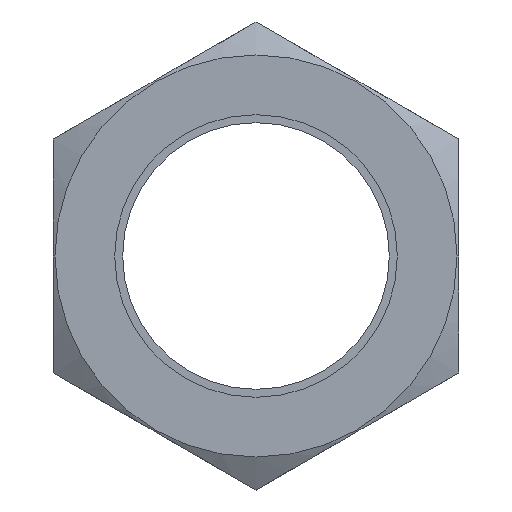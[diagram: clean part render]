
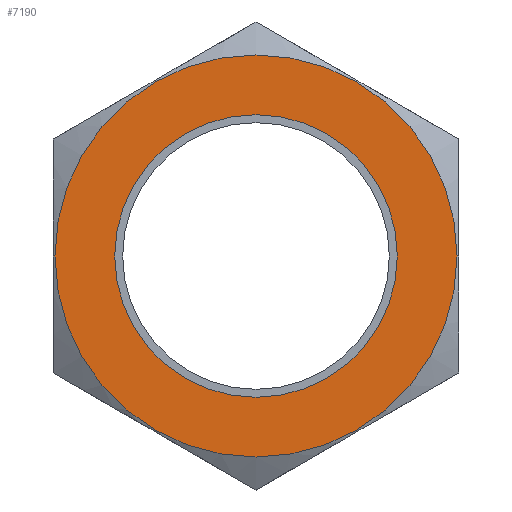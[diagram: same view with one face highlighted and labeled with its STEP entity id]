
A CAD part, front view. The second image highlights one B-rep face of the part: STEP entity #7190.
In plain terms, the highlighted planar face has unit normal (0, -1, 0).
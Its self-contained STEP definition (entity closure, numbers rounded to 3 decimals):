
#4140=CARTESIAN_POINT('',(477.243,15.381,
0.));
#4150=VERTEX_POINT('',#4140);
#6800=CARTESIAN_POINT('',(514.943,15.381,0.));
#6810=VERTEX_POINT('',#6800);
#6840=CARTESIAN_POINT('',(496.093,15.381,0.));
#6850=DIRECTION('',(0.,1.,0.));
#6860=DIRECTION('',(1.,0.,0.));
#6870=AXIS2_PLACEMENT_3D('',#6840,#6850,#6860);
#6880=CIRCLE('',#6870,18.85);
#6890=EDGE_CURVE('',#4150,#6810,#6880,.T.);
#6940=CARTESIAN_POINT('',(512.22,15.381,0.));
#6950=DIRECTION('',(-0.,1.,0.));
#6960=DIRECTION('',(1.,0.,0.));
#6970=AXIS2_PLACEMENT_3D('',#6940,#6950,#6960);
#6980=PLANE('',#6970);
#6990=EDGE_CURVE('',#6810,#4150,#6880,.T.);
#7000=ORIENTED_EDGE('',*,*,#6990,.F.);
#7010=ORIENTED_EDGE('',*,*,#6890,.F.);
#7020=EDGE_LOOP('',(#7010,#7000));
#7030=FACE_OUTER_BOUND('',#7020,.T.);
#7040=CARTESIAN_POINT('',(496.093,15.381,0.));
#7050=DIRECTION('',(0.,-1.,0.));
#7060=DIRECTION('',(1.,0.,0.));
#7070=AXIS2_PLACEMENT_3D('',#7040,#7050,#7060);
#7080=CIRCLE('',#7070,13.25);
#7090=CARTESIAN_POINT('',(509.343,15.381,0.));
#7100=VERTEX_POINT('',#7090);
#7110=CARTESIAN_POINT('',(482.843,15.381,
0.));
#7120=VERTEX_POINT('',#7110);
#7130=EDGE_CURVE('',#7100,#7120,#7080,.T.);
#7140=ORIENTED_EDGE('',*,*,#7130,.F.);
#7150=EDGE_CURVE('',#7120,#7100,#7080,.T.);
#7160=ORIENTED_EDGE('',*,*,#7150,.F.);
#7170=EDGE_LOOP('',(#7160,#7140));
#7180=FACE_BOUND('',#7170,.T.);
#7190=ADVANCED_FACE('',(#7030,#7180),#6980,.F.);
